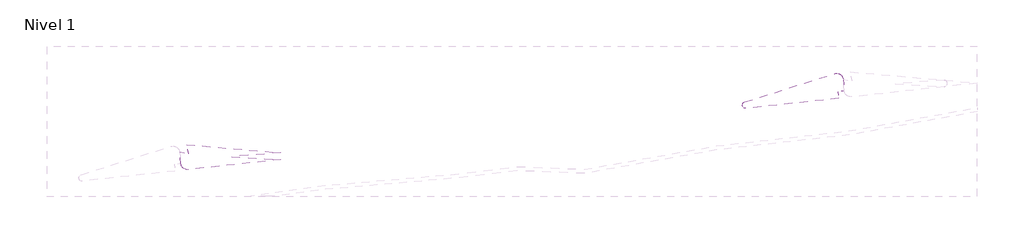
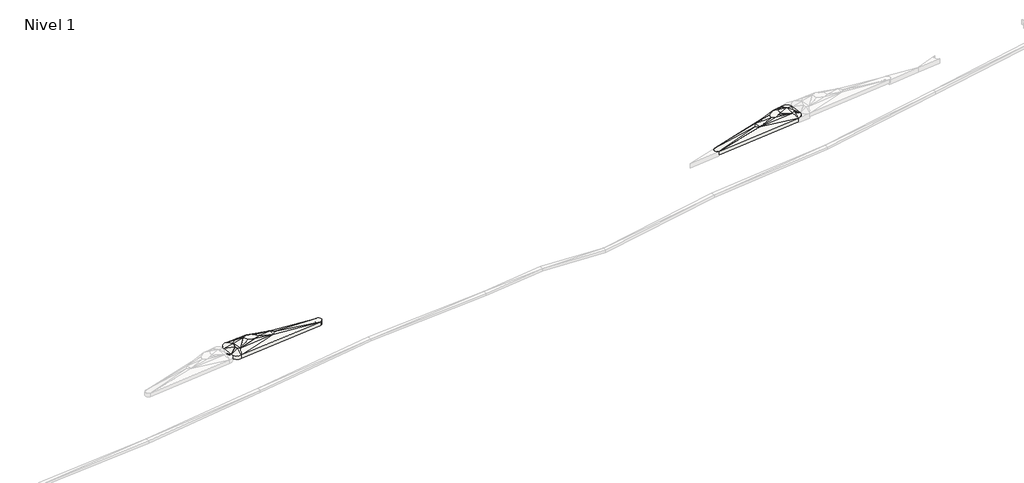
# One storey, part 9 of 45: 2 slabs.
"""IFC4 building model written with IfcOpenShell, lengths in millimetres."""

from ifc_helpers import new_model, si_unit, frame, origin, place, context, project, spatial, polyline, circle_curve, element, save
from ifc_brep_helpers import plane_surface, cylinder_surface, revolved_surface, spline_surface, advanced_brep

model = new_model("IFC4")

# Units and contexts
model_context = context("Model", 3, world=origin())
ifc_project = project(units=[si_unit("LENGTHUNIT", "METRE", prefix="MILLI")], contexts=[model_context])

# Site, building, storey
site = spatial("IfcSite", under=ifc_project)
building = spatial("IfcBuilding", under=site)
storey = spatial("IfcBuildingStorey", under=building, Name="Nivel 1", Elevation=0.0)

# Slabs
placement = place(None, origin())
element("IfcSlab", 1, ObjectType="Lippia", at=placement, inside=storey, context=model_context, shape_type="AdvancedBrep", body=[
    advanced_brep(
    [(-78317.5096502, -457027.4415513, 4700.0), (-78317.5096502, -457027.4415513, 5000.0), (-78218.2362381, -457938.6439273, 5000.0), (-78218.2362381, -457938.6439273, 4700.0), (-78991.6641532, -456639.185149, 4700.0), (-78991.6641532, -456639.185149, 5000.0), (-85685.6037681, -458752.397251, 4700.0), (-85685.6037681, -458752.397251, 5000.0), (-78659.6044819, -458486.4283773, 4700.0), (-78659.6044819, -458486.4283773, 5000.0), (-85614.3661925, -459240.7560698, 5000.0), (-85614.3661925, -459240.7560698, 4700.0), (-80162.5180282, -457399.2884397, 5500.0), (-80622.4646258, -457751.7762355, 5500.0), (-80671.931062, -458081.0998646, 5500.0), (-80348.7650465, -458175.0724871, 5500.0), (-80104.3981646, -458049.8824294, 5500.0), (-79822.5178486, -457917.1743487, 5500.0), (-79791.5928012, -457476.8832363, 5500.0), (-78941.7160401, -457324.0306463, 5300.0), (-78720.0496059, -457778.0300772, 5300.0), (-80162.5180282, -457399.2884397, 5200.0), (-79791.5928012, -457476.8832363, 5200.0), (-79822.5178486, -457917.1743487, 5200.0), (-80104.3981646, -458049.8824294, 5200.0), (-80348.7650465, -458175.0724871, 5200.0), (-80671.931062, -458081.0998646, 5200.0), (-80622.4646258, -457751.7762355, 5200.0), (-78941.7160401, -457324.0306463, 5000.0), (-78720.0496059, -457778.0300772, 5000.0), (-81882.2890031, -457940.3607078, 5300.0), (-81769.7524408, -458423.294937, 5300.0), (-81882.2890031, -457940.3607078, 5000.0), (-81769.7524408, -458423.294937, 5000.0), (-78919.6816593, -458136.4673527, 5300.0), (-78715.6352198, -457989.5777392, 5300.0), (-78919.6816593, -458136.4673527, 5000.0), (-78715.6352198, -457989.5777392, 5000.0), (-79206.3002688, -457078.7779479, 5300.0), (-79206.3002688, -457078.7779479, 5000.0), (-79567.052821, -457075.4169529, 5300.0), (-79567.052821, -457075.4169529, 5000.0), (-82038.2762182, -458231.282357, 5300.0), (-82038.2762182, -458231.282357, 5000.0)],
    [
        (0, 1),
        (1, 2),
        (2, 3),
        (3, 0),
        (4, 5),
        (5, 1, circle_curve(frame((-78811.3713229, -457105.5482005, 5000.0), z_axis=(0.0, 0.0, -1.0), x_axis=(-0.9018616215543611, 0.432025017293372, 0.0)), 500.0000005)),
        (0, 4, circle_curve(frame((-78811.3713229, -457105.5482005, 4700.0), z_axis=(0.0, 0.0, 1.0), x_axis=(-0.9018616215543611, 0.432025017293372, 0.0)), 500.0000005)),
        (6, 7),
        (7, 5),
        (4, 6),
        (8, 9),
        (9, 10),
        (10, 11),
        (11, 8),
        (2, 9, circle_curve(frame((-78715.6352198, -457989.5777392, 5000.0), z_axis=(0.0, 0.0, -1.0), x_axis=(-0.9018616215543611, 0.432025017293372, 0.0)), 500.0000001)),
        (8, 3, circle_curve(frame((-78715.6352198, -457989.5777392, 4700.0), z_axis=(0.0, 0.0, 1.0), x_axis=(-0.9018616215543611, 0.432025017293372, 0.0)), 500.0000001)),
        (12, 13),
        (13, 14),
        (14, 15),
        (15, 16),
        (16, 17),
        (17, 18),
        (18, 12),
        (5, 19),
        (19, 1),
        (1, 20),
        (20, 2),
        (21, 22),
        (22, 23),
        (23, 24),
        (24, 25),
        (25, 26),
        (26, 27),
        (27, 21),
        (0, 28),
        (28, 4),
        (3, 29),
        (29, 0),
        (13, 30),
        (30, 14),
        (14, 31),
        (31, 15),
        (26, 32),
        (32, 27),
        (25, 33),
        (33, 26),
        (30, 31),
        (12, 30),
        (33, 32),
        (32, 21),
        (34, 9),
        (9, 35),
        (35, 34),
        (16, 34),
        (34, 17),
        (36, 37),
        (37, 8),
        (8, 36),
        (23, 36),
        (36, 24),
        (2, 35),
        (35, 20),
        (20, 19),
        (19, 34),
        (37, 3),
        (36, 28),
        (28, 29),
        (29, 37),
        (19, 17),
        (19, 18),
        (5, 38),
        (38, 19),
        (23, 28),
        (22, 28),
        (28, 39),
        (39, 4),
        (40, 18),
        (18, 38),
        (38, 40),
        (40, 5),
        (5, 30),
        (30, 40),
        (41, 39),
        (39, 22),
        (22, 41),
        (41, 32),
        (32, 4),
        (4, 41),
        (34, 15),
        (31, 34),
        (31, 9),
        (36, 33),
        (25, 36),
        (8, 33),
        (40, 12),
        (21, 41),
        (42, 31),
        (30, 42),
        (43, 32),
        (33, 43),
        (10, 7, circle_curve(frame((-85610.3085329, -458990.7890022, 5000.0), z_axis=(0.0, 0.0, -1.0), x_axis=(-0.9018616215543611, 0.432025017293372, 0.0)), 249.999999)),
        (6, 11, circle_curve(frame((-85610.3085329, -458990.7890022, 4700.0), z_axis=(0.0, 0.0, 1.0), x_axis=(-0.9018616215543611, 0.432025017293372, 0.0)), 249.999999)),
        (31, 10),
        (42, 10),
        (42, 7),
        (30, 7),
        (11, 33),
        (11, 43),
        (6, 43),
        (6, 32),
    ],
    [
        plane_surface(frame((-78317.5096502, -457027.4415513, 4700.0), z_axis=(0.9941175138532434, 0.10830682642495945, 0.0), x_axis=(0.0, 0.0, 1.0))),
        cylinder_surface(frame((-78811.3713229, -457105.5482005, 5000.0), z_axis=(0.0, 0.0, -1.0), x_axis=(-0.9018616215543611, 0.432025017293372, 0.0)), 500.0000005),
        plane_surface(frame((-85685.6037681, -458752.397251, 4700.0), z_axis=(-0.3010454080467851, 0.9536098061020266, 0.0), x_axis=(0.0, 0.0, 1.0))),
        plane_surface(frame((-78659.6044819, -458486.4283773, 4700.0), z_axis=(0.10782964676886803, -0.9941693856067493, 0.0), x_axis=(0.0, 0.0, 1.0))),
        cylinder_surface(frame((-78715.6352198, -457989.5777392, 5000.0), z_axis=(0.0, 0.0, -1.0), x_axis=(-0.9018616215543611, 0.432025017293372, 0.0)), 500.0000001),
        plane_surface(frame((-80217.7410824, -457835.8824345, 5500.0), z_axis=(0.0, 0.0, 1.0), x_axis=(-0.7937212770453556, -0.6082816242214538, 0.0))),
        spline_surface(2, 1, [[(-78317.5096502, -457027.4415513, 5000.0), (-78941.7160401, -457324.0306463, 5300.0)], [(-78354.82696166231, -456791.4873777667, 5000.0), (-78941.7160401, -457324.0306463, 5300.0)], [(-78561.83753116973, -456672.26666708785, 5000.0), (-78941.7160401, -457324.0306463, 5300.0)], [(-78768.84810071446, -456553.04595642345, 5000.0), (-78941.7160401, -457324.0306463, 5300.0)], [(-78991.6641532, -456639.185149, 5000.0), (-78941.7160401, -457324.0306463, 5300.0)]], [3, 2, 3], [2, 2], [0.0, 1.0, 2.0], [0.0, 1.0], weights=[[1.0, 1.0], [0.9023052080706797, 0.9023052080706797], [1.0, 1.0], [0.90230520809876, 0.90230520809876], [1.0, 1.0]]),
        plane_surface(frame((-78418.598498, -457581.3718519, 5100.0), z_axis=(0.525726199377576, 0.057276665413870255, 0.8487233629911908), x_axis=(-0.10830682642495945, 0.9941175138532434, 0.0))),
        plane_surface(frame((-80217.7410824, -457835.8824345, 5200.0), z_axis=(0.0, 0.0, -1.0), x_axis=(-0.7937212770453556, -0.6082816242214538, 0.0))),
        spline_surface(1, 2, [[(-78317.5096502, -457027.4415513, 4700.0), (-78354.82696166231, -456791.4873777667, 4700.0), (-78561.83753116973, -456672.26666708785, 4700.0), (-78768.84810071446, -456553.04595642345, 4700.0), (-78991.6641532, -456639.185149, 4700.0)], [(-78941.7160401, -457324.0306463, 5000.0), (-78941.7160401, -457324.0306463, 5000.0), (-78941.7160401, -457324.0306463, 5000.0), (-78941.7160401, -457324.0306463, 5000.0), (-78941.7160401, -457324.0306463, 5000.0)]], [2, 2], [3, 2, 3], [0.0, 1.0], [0.0, 1.0, 2.0], weights=[[1.0, 0.9023052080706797, 1.0, 0.90230520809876, 1.0], [1.0, 0.9023052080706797, 1.0, 0.90230520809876, 1.0]]),
        plane_surface(frame((-78418.598498, -457581.3718519, 4800.0), z_axis=(-0.525726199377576, -0.057276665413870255, -0.8487233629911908), x_axis=(-0.10830682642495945, 0.9941175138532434, 0.0))),
        plane_surface(frame((-81058.894897, -457924.4122693, 5433.3333333), z_axis=(-0.1602571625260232, 0.02407161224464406, 0.9867817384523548), x_axis=(0.14853983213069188, 0.9889064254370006, 0.0))),
        plane_surface(frame((-80930.1495164, -458226.4890963, 5433.3333333), z_axis=(-0.08386722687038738, -0.28841418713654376, 0.9538257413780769), x_axis=(-0.9602266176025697, 0.27922185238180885, 0.0))),
        plane_surface(frame((-81058.894897, -457924.4122693, 5133.3333333), z_axis=(0.1602571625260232, -0.02407161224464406, -0.9867817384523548), x_axis=(0.14853983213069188, 0.9889064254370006, 0.0))),
        plane_surface(frame((-80930.1495164, -458226.4890963, 5133.3333333), z_axis=(0.08386722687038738, 0.28841418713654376, -0.9538257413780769), x_axis=(-0.9602266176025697, 0.27922185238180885, 0.0))),
        plane_surface(frame((-81441.3241686, -458148.2518365, 5366.6666667), z_axis=(-0.16731720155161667, -0.0389893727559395, 0.9851318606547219), x_axis=(0.9405758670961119, 0.2931810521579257, 0.1713531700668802))),
        plane_surface(frame((-80889.0905524, -457697.1417943, 5433.3333333), z_axis=(-0.1876638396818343, 0.2448747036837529, 0.9512195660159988), x_axis=(0.9770127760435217, 0.14625009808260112, 0.15510301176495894))),
        plane_surface(frame((-81441.3241686, -458148.2518365, 5066.6666667), z_axis=(0.16731720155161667, 0.0389893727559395, -0.9851318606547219), x_axis=(0.9405758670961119, 0.2931810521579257, 0.1713531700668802))),
        plane_surface(frame((-80889.0905524, -457697.1417943, 5133.3333333), z_axis=(0.1876638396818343, -0.2448747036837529, -0.9512195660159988), x_axis=(0.9770127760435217, 0.14625009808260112, 0.15510301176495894))),
        plane_surface(frame((-78764.973787, -458204.1578231, 5200.0), z_axis=(0.33119336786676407, -0.4600653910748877, 0.8238026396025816), x_axis=(0.49140064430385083, -0.6612309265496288, -0.5668324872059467))),
        plane_surface(frame((-79615.5325575, -458034.5080436, 5433.3333333), z_axis=(0.1382235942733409, -0.29359561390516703, 0.9458836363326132), x_axis=(-0.9047463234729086, -0.425950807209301, 0.0))),
        plane_surface(frame((-78764.973787, -458204.1578231, 4900.0), z_axis=(-0.33119336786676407, 0.4600653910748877, -0.8238026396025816), x_axis=(0.49140064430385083, -0.6612309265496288, -0.5668324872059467))),
        plane_surface(frame((-79615.5325575, -458034.5080436, 5133.3333333), z_axis=(-0.1382235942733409, 0.29359561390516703, -0.9458836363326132), x_axis=(-0.9047463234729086, -0.425950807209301, 0.0))),
        revolved_surface(polyline([(-78715.6352198, -457989.5777392, 5300.0), (-78659.6044819, -458486.4283773, 5000.0)]), (-78715.6352198, -457989.5777392, 5300.0), (0.0, 0.0, -1.0)),
        plane_surface(frame((-78824.2706313, -457807.0264538, 5300.0), z_axis=(0.0, 0.0, 1.0000000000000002), x_axis=(-0.020862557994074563, 0.9997823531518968, 0.0))),
        plane_surface(frame((-78551.3070213, -457902.0839146, 5200.0), z_axis=(0.5156318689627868, 0.010759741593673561, 0.8567426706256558), x_axis=(0.8530322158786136, 0.0873507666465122, -0.5144957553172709))),
        revolved_surface(polyline([(-78218.2362381, -457938.6439273, 4700.0), (-78715.6352198, -457989.5777392, 5000.0)]), (-78715.6352198, -457989.5777392, 5000.0), (0.0, 0.0, -1.0)),
        plane_surface(frame((-78824.2706313, -457807.0264538, 5000.0), z_axis=(0.0, 0.0, -1.0000000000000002), x_axis=(-0.020862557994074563, 0.9997823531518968, 0.0))),
        plane_surface(frame((-78551.3070213, -457902.0839146, 4900.0), z_axis=(-0.5156318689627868, -0.010759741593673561, -0.8567426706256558), x_axis=(0.8530322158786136, 0.0873507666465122, -0.5144957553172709))),
        plane_surface(frame((-79227.9718493, -457792.5574492, 5366.6666667), z_axis=(0.21764361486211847, 0.005902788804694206, 0.9760104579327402), x_axis=(-0.8151271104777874, -0.5489174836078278, 0.18508751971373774))),
        plane_surface(frame((-79518.6088966, -457572.6960771, 5433.3333333), z_axis=(0.231814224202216, -0.01628210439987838, 0.9726238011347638), x_axis=(-0.9588268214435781, -0.17244754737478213, 0.22563902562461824))),
        plane_surface(frame((-79046.560154, -457013.9979144, 5200.0), z_axis=(0.3666995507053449, 0.39560387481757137, 0.8420386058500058), x_axis=(-0.06665627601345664, 0.913933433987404, -0.40035311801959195))),
        plane_surface(frame((-78659.758432, -457376.5007582, 5200.0), z_axis=(0.3578428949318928, 0.17471774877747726, 0.9172906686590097), x_axis=(0.44577725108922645, 0.8312101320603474, -0.33222335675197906))),
        plane_surface(frame((-79227.9718493, -457792.5574492, 5066.6666667), z_axis=(-0.21764361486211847, -0.005902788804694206, -0.9760104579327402), x_axis=(-0.8151271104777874, -0.5489174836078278, 0.18508751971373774))),
        plane_surface(frame((-79518.6088966, -457572.6960771, 5133.3333333), z_axis=(-0.231814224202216, 0.01628210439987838, -0.9726238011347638), x_axis=(-0.9588268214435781, -0.17244754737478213, 0.22563902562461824))),
        plane_surface(frame((-79046.560154, -457013.9979144, 4900.0), z_axis=(-0.3666995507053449, -0.39560387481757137, -0.8420386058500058), x_axis=(-0.06665627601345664, 0.913933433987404, -0.40035311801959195))),
        plane_surface(frame((-78659.758432, -457376.5007582, 4900.0), z_axis=(-0.3578428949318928, -0.17471774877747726, -0.9172906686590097), x_axis=(0.44577725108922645, 0.8312101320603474, -0.33222335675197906))),
        plane_surface(frame((-79521.6486303, -457210.359379, 5366.6666667), z_axis=(0.004137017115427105, 0.44404692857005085, 0.8959939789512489), x_axis=(-0.44765565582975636, -0.8003859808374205, 0.39873135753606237))),
        plane_surface(frame((-80147.0019924, -457218.3209366, 5200.0), z_axis=(-0.28792166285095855, 0.7706936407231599, 0.5684473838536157), x_axis=(0.7358836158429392, 0.5579112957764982, -0.3836799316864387))),
        plane_surface(frame((-79521.6486303, -457210.359379, 5066.6666667), z_axis=(-0.004137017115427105, -0.44404692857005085, -0.8959939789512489), x_axis=(-0.44765565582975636, -0.8003859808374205, 0.39873135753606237))),
        plane_surface(frame((-80147.0019924, -457218.3209366, 4900.0), z_axis=(0.28792166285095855, -0.7706936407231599, -0.5684473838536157), x_axis=(0.7358836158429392, 0.5579112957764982, -0.3836799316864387))),
        plane_surface(frame((-79313.2030367, -457293.2306101, 5366.6666667), z_axis=(0.18929279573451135, 0.20421340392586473, 0.9604504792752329), x_axis=(-0.7957052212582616, -0.5412241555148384, 0.27190000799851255))),
        plane_surface(frame((-79313.2030367, -457293.2306101, 5066.6666667), z_axis=(-0.18929279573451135, -0.20421340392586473, -0.9604504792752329), x_axis=(-0.7957052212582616, -0.5412241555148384, 0.27190000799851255))),
        plane_surface(frame((-80346.0663822, -458244.9449256, 5366.6666667), z_axis=(0.08871453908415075, -0.8815146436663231, 0.4637474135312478), x_axis=(-0.989994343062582, -0.02674362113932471, 0.13854955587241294))),
        plane_surface(frame((-79790.9482901, -458120.4740898, 5433.3333333), z_axis=(0.14054619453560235, -0.27434155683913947, 0.9513061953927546), x_axis=(-0.9834974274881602, 0.07187884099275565, 0.1660308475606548))),
        plane_surface(frame((-79783.0128607, -458348.7302223, 5200.0), z_axis=(0.06262947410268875, -0.622319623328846, 0.7802536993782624), x_axis=(0.9951769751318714, -0.020201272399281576, -0.09599321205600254))),
        plane_surface(frame((-80346.0663822, -458244.9449256, 5066.6666667), z_axis=(-0.08871453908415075, 0.8815146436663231, -0.4637474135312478), x_axis=(-0.989994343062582, -0.02674362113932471, 0.13854955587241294))),
        plane_surface(frame((-79790.9482901, -458120.4740898, 5133.3333333), z_axis=(-0.14054619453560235, 0.27434155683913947, -0.9513061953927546), x_axis=(-0.9834974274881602, 0.07187884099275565, 0.1660308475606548))),
        plane_surface(frame((-79783.0128607, -458348.7302223, 4900.0), z_axis=(-0.06262947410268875, 0.622319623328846, -0.7802536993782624), x_axis=(0.9951769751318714, -0.020201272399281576, -0.09599321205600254))),
        plane_surface(frame((-79840.3878835, -457317.1962096, 5433.3333333), z_axis=(0.08490034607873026, 0.40584783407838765, 0.9099887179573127), x_axis=(0.9788121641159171, -0.2047602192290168, 0.0))),
        plane_surface(frame((-80537.2866174, -457471.6887001, 5366.6666667), z_axis=(-0.31611396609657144, 0.8461573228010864, 0.4290568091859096), x_axis=(0.9480869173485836, 0.2982859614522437, 0.11025734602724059))),
        plane_surface(frame((-79840.3878835, -457317.1962096, 5133.3333333), z_axis=(-0.08490034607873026, -0.40584783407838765, -0.9099887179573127), x_axis=(0.9788121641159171, -0.2047602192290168, 0.0))),
        plane_surface(frame((-80537.2866174, -457471.6887001, 5066.6666667), z_axis=(0.31611396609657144, -0.8461573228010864, -0.4290568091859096), x_axis=(0.9480869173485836, 0.2982859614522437, 0.11025734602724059))),
        plane_surface(frame((-81896.772554, -458198.3126672, 5300.0), z_axis=(0.0, 0.0, 1.0000000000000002), x_axis=(0.813432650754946, -0.5816591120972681, 0.0))),
        plane_surface(frame((-79255.0057476, -456931.1266833, 5200.0), z_axis=(0.00523538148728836, 0.561939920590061, 0.8271614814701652), x_axis=(0.37402447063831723, 0.7660335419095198, -0.5227794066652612))),
        plane_surface(frame((-81896.772554, -458198.3126672, 5000.0), z_axis=(0.0, 0.0, -1.0000000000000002), x_axis=(0.813432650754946, -0.5816591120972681, 0.0))),
        plane_surface(frame((-79255.0057476, -456931.1266833, 4900.0), z_axis=(-0.00523538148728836, -0.561939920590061, -0.8271614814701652), x_axis=(0.37402447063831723, 0.7660335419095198, -0.5227794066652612))),
        cylinder_surface(frame((-85610.3085329, -458990.7890022, 5000.0), z_axis=(0.0, 0.0, -1.0), x_axis=(-0.9018616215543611, 0.432025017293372, 0.0)), 249.999999),
        plane_surface(frame((-82014.5743717, -458716.8264613, 5100.0), z_axis=(0.06489162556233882, -0.5982887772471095, 0.7986486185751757), x_axis=(0.9941693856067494, 0.10782964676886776, 0.0))),
        plane_surface(frame((-83140.7982838, -458631.7777879, 5200.0), z_axis=(-0.05982764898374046, -0.08366715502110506, 0.994696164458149), x_axis=(0.9752973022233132, 0.20737262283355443, 0.07610366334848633))),
        spline_surface(2, 1, [[(-85685.6037681, -458752.397251, 5000.0), (-82038.2762182, -458231.282357, 5300.0)], [(-85888.38608583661, -458816.44536605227, 5000.0), (-82038.2762182, -458231.282357, 5300.0)], [(-85857.69043290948, -459026.8749417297, 5000.0), (-82038.2762182, -458231.282357, 5300.0)], [(-85826.99477997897, -459237.30451740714, 5000.0), (-82038.2762182, -458231.282357, 5300.0)], [(-85614.3661925, -459240.7560698, 5000.0), (-82038.2762182, -458231.282357, 5300.0)]], [3, 2, 3], [2, 2], [0.0, 1.0, 2.0], [0.0, 1.0], weights=[[1.0, 1.0], [0.7617038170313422, 0.7617038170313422], [1.0, 1.0], [0.761703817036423, 0.761703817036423], [1.0, 1.0]]),
        plane_surface(frame((-83202.0563298, -458308.0134386, 5200.0), z_axis=(-0.08862436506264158, 0.04751886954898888, 0.9949309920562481), x_axis=(0.47254228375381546, 0.8813079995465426, 0.0))),
        plane_surface(frame((-82186.5189748, -457777.3143692, 5100.0), z_axis=(-0.18941223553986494, 0.5999937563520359, 0.7772583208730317), x_axis=(0.9078186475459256, 0.408642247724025, -0.0942168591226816))),
        plane_surface(frame((-82014.5743717, -458716.8264613, 4800.0), z_axis=(-0.06489162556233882, 0.5982887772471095, -0.7986486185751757), x_axis=(0.9941693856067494, 0.10782964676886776, 0.0))),
        plane_surface(frame((-83140.7982838, -458631.7777879, 4900.0), z_axis=(0.05982764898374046, 0.08366715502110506, -0.994696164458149), x_axis=(0.9752973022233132, 0.20737262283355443, 0.07610366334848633))),
        spline_surface(1, 2, [[(-85685.6037681, -458752.397251, 4700.0), (-85888.38608583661, -458816.44536605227, 4700.0), (-85857.69043290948, -459026.8749417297, 4700.0), (-85826.99477997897, -459237.30451740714, 4700.0), (-85614.3661925, -459240.7560698, 4700.0)], [(-82038.2762182, -458231.282357, 5000.0), (-82038.2762182, -458231.282357, 5000.0), (-82038.2762182, -458231.282357, 5000.0), (-82038.2762182, -458231.282357, 5000.0), (-82038.2762182, -458231.282357, 5000.0)]], [2, 2], [3, 2, 3], [0.0, 1.0], [0.0, 1.0, 2.0], weights=[[1.0, 0.7617038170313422, 1.0, 0.761703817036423, 1.0], [1.0, 0.7617038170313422, 1.0, 0.761703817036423, 1.0]]),
        plane_surface(frame((-83202.0563298, -458308.0134386, 4900.0), z_axis=(0.08862436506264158, -0.04751886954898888, -0.9949309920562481), x_axis=(0.47254228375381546, 0.8813079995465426, 0.0))),
        plane_surface(frame((-82186.5189748, -457777.3143692, 4800.0), z_axis=(0.18941223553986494, -0.5999937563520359, -0.7772583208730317), x_axis=(0.9078186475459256, 0.408642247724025, -0.0942168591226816))),
    ],
    [
        (0, [[1, 2, 3, 4]]),
        (1, [[5, 6, -1, 7]]),
        (2, [[8, 9, -5, 10]]),
        (3, [[11, 12, 13, 14]]),
        (4, [[-3, 15, -11, 16]]),
        (5, [[17, 18, 19, 20, 21, 22, 23]]),
        (6, [[-6, 24, 25]]),
        (7, [[-2, 26, 27]]),
        (8, [[28, 29, 30, 31, 32, 33, 34]]),
        (9, [[35, 36, -7]]),
        (10, [[37, 38, -4]]),
        (11, [[-18, 39, 40]]),
        (12, [[-19, 41, 42]]),
        (13, [[43, 44, -33]]),
        (14, [[45, 46, -32]]),
        (15, [[-41, -40, 47]]),
        (16, [[-39, -17, 48]]),
        (17, [[49, -43, -46]]),
        (18, [[50, -34, -44]]),
        (19, [[51, 52, 53]]),
        (20, [[-21, 54, 55]]),
        (21, [[56, 57, 58]]),
        (22, [[59, 60, -30]]),
        (23, [[-52, -15, 61]]),
        (24, [[62, 63, 64, -53]]),
        (25, [[-61, -27, -62]]),
        (26, [[65, -16, -57]]),
        (27, [[-56, 66, 67, 68]]),
        (28, [[-68, -37, -65]]),
        (29, [[69, -55, -64]]),
        (30, [[70, -22, -69]]),
        (31, [[-24, 71, 72]]),
        (32, [[-26, -25, -63]]),
        (33, [[-66, -59, 73]]),
        (34, [[-73, -29, 74]]),
        (35, [[75, 76, -36]]),
        (36, [[-67, -35, -38]]),
        (37, [[77, 78, 79]]),
        (38, [[80, 81, 82]]),
        (39, [[83, 84, 85]]),
        (40, [[86, 87, 88]]),
        (41, [[-78, -70, -72]]),
        (42, [[-75, -74, -84]]),
        (43, [[89, -42, 90]]),
        (44, [[-54, -20, -89]]),
        (45, [[91, -51, -90]]),
        (46, [[92, -45, 93]]),
        (47, [[-93, -31, -60]]),
        (48, [[-92, -58, 94]]),
        (49, [[-23, -77, 95]]),
        (50, [[-48, -95, -82]]),
        (51, [[96, -85, -28]]),
        (52, [[-86, -96, -50]]),
        (53, [[97, -47, 98]]),
        (54, [[-71, -80, -79]]),
        (55, [[99, -49, 100]]),
        (56, [[-83, -88, -76]]),
        (57, [[-13, 101, -8, 102]]),
        (58, [[-12, -91, 103]]),
        (59, [[-103, -97, 104]]),
        (60, [[-104, 105, -101]]),
        (61, [[-98, 106, -105]]),
        (62, [[-81, -9, -106]]),
        (63, [[107, -94, -14]]),
        (64, [[108, -100, -107]]),
        (65, [[-102, 109, -108]]),
        (66, [[-109, 110, -99]]),
        (67, [[-110, -10, -87]]),
    ],
),
])
element("IfcSlab", 2, ObjectType="Lippia", at=placement, inside=storey, context=model_context, shape_type="AdvancedBrep", body=[
    advanced_brep(
    [(-127919.9306746, -463386.702953, 4450.0), (-127919.9306746, -463386.702953, 4750.0), (-128017.2836823, -462498.6878545, 4750.0), (-128017.2836823, -462498.6878545, 4450.0), (-127474.6091489, -461946.2871816, 4750.0), (-127474.6091489, -461946.2871816, 4450.0), (-120440.2966363, -462568.4450473, 4750.0), (-120440.2966363, -462568.4450473, 4450.0), (-120436.339094, -463066.1232879, 4450.0), (-120436.339094, -463066.1232879, 4750.0), (-127370.6612443, -463826.2218072, 4750.0), (-127370.6612443, -463826.2218072, 4450.0), (-127334.3102682, -462633.2501033, 5050.0), (-127451.4868423, -463119.919018, 5050.0), (-127334.3102682, -462633.2501033, 4750.0), (-127451.4868423, -463119.919018, 4750.0), (-125612.8198018, -462684.9386799, 5250.0), (-125875.4325982, -462562.5289218, 5250.0), (-126138.0453947, -462440.1191636, 5250.0), (-126483.4542155, -462596.0012437, 5250.0), (-126335.0022965, -463020.0155833, 5250.0), (-126054.2664673, -463087.9089053, 5250.0), (-125822.4131863, -463143.9804424, 5250.0), (-125480.0443656, -462993.1143261, 5250.0), (-125612.8198018, -462684.9386799, 4950.0), (-125480.0443656, -462993.1143261, 4950.0), (-125822.4131863, -463143.9804424, 4950.0), (-126054.2664673, -463087.9089053, 4950.0), (-126335.0022965, -463020.0155833, 4950.0), (-126483.4542155, -462596.0012437, 4950.0), (-126138.0453947, -462440.1191636, 4950.0), (-125875.4325982, -462562.5289218, 4950.0), (-127177.8885519, -463426.5567332, 5050.0), (-127394.9706065, -463344.8705081, 5050.0), (-127177.8885519, -463426.5567332, 4750.0), (-127394.9706065, -463344.8705081, 4750.0), (-127129.4171293, -462333.0559035, 5050.0), (-127129.4171293, -462333.0559035, 4750.0), (-126775.3661179, -462250.9240748, 5050.0), (-124328.9690256, -462594.5698721, 5050.0), (-124328.9690256, -462594.5698721, 4750.0), (-126775.3661179, -462250.9240748, 4750.0), (-124334.4166422, -463090.4133046, 5050.0), (-124334.4166422, -463090.4133046, 4750.0), (-124113.7606137, -462844.8751989, 5050.0), (-124113.7606137, -462844.8751989, 4750.0)],
    [
        (0, 1),
        (1, 2),
        (2, 3),
        (3, 0),
        (2, 4, circle_curve(frame((-127520.2581228, -462444.1989915, 4750.0), z_axis=(0.0, 0.0, -1.0), x_axis=(-0.19657437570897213, 0.9804889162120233, 0.0)), 499.9999992)),
        (4, 5),
        (5, 3, circle_curve(frame((-127520.2581228, -462444.1989915, 4450.0), z_axis=(0.0, 0.0, 1.0), x_axis=(-0.19657437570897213, 0.9804889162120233, 0.0)), 499.9999992)),
        (4, 6),
        (6, 7),
        (7, 5),
        (8, 9),
        (9, 10),
        (10, 11),
        (11, 8),
        (10, 1, circle_curve(frame((-127423.2717707, -463328.9973784, 4750.0), z_axis=(0.0, 0.0, -1.0), x_axis=(-0.19657437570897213, 0.9804889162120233, 0.0)), 500.0000001)),
        (0, 11, circle_curve(frame((-127423.2717707, -463328.9973784, 4450.0), z_axis=(0.0, 0.0, 1.0), x_axis=(-0.19657437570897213, 0.9804889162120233, 0.0)), 500.0000001)),
        (2, 12),
        (12, 4),
        (1, 13),
        (13, 2),
        (5, 14),
        (14, 3),
        (3, 15),
        (15, 0),
        (16, 17),
        (17, 18),
        (18, 19),
        (19, 20),
        (20, 21),
        (21, 22),
        (22, 23),
        (23, 16),
        (24, 25),
        (25, 26),
        (26, 27),
        (27, 28),
        (28, 29),
        (29, 30),
        (30, 31),
        (31, 24),
        (20, 32),
        (32, 22),
        (10, 32),
        (32, 33),
        (33, 10),
        (19, 32),
        (26, 34),
        (34, 28),
        (11, 35),
        (35, 34),
        (34, 11),
        (34, 29),
        (32, 12),
        (12, 13),
        (13, 33),
        (19, 12),
        (12, 36),
        (36, 4),
        (35, 15),
        (15, 14),
        (14, 34),
        (14, 29),
        (5, 37),
        (37, 14),
        (4, 38),
        (38, 39),
        (39, 4),
        (19, 38),
        (38, 36),
        (36, 19),
        (5, 40),
        (40, 41),
        (41, 5),
        (29, 37),
        (37, 41),
        (41, 29),
        (22, 42),
        (42, 23),
        (23, 39),
        (39, 16),
        (39, 18),
        (25, 43),
        (43, 26),
        (24, 40),
        (40, 25),
        (30, 40),
        (42, 39),
        (40, 43),
        (1, 33),
        (35, 0),
        (10, 42),
        (42, 32),
        (42, 44),
        (44, 39),
        (18, 38),
        (34, 43),
        (43, 11),
        (40, 45),
        (45, 43),
        (41, 30),
        (6, 9, circle_curve(frame((-120462.3225749, -462817.4772374, 4750.0), z_axis=(0.0, 0.0, -1.0), x_axis=(-0.19657437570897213, 0.9804889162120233, 0.0)), 249.9999994)),
        (8, 7, circle_curve(frame((-120462.3225749, -462817.4772374, 4450.0), z_axis=(0.0, 0.0, 1.0), x_axis=(-0.19657437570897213, 0.9804889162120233, 0.0)), 249.9999994)),
        (9, 42),
        (9, 44),
        (6, 44),
        (6, 39),
        (43, 8),
        (45, 8),
        (45, 7),
        (40, 7),
    ],
    [
        plane_surface(frame((-127919.9306746, -463386.702953, 4450.0), z_axis=(-0.9940442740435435, -0.10897697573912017, 0.0), x_axis=(0.0, 0.0, 1.0))),
        cylinder_surface(frame((-127520.2581228, -462444.1989915, 4750.0), z_axis=(0.0, 0.0, -1.0), x_axis=(-0.19657437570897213, 0.9804889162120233, 0.0)), 499.9999992),
        plane_surface(frame((-127474.6091489, -461946.2871816, 4450.0), z_axis=(0.08810222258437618, 0.9961114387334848, 0.0), x_axis=(0.0, 0.0, 1.0))),
        plane_surface(frame((-120436.339094, -463066.1232879, 4450.0), z_axis=(0.10896131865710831, -0.9940459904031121, 0.0), x_axis=(0.0, 0.0, 1.0))),
        cylinder_surface(frame((-127423.2717707, -463328.9973784, 4750.0), z_axis=(0.0, 0.0, -1.0), x_axis=(-0.19657437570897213, 0.9804889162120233, 0.0)), 500.0000001),
        spline_surface(2, 1, [[(-127474.6091489, -461946.2871816, 4750.0), (-127334.3102682, -462633.2501033, 5050.0)], [(-127710.7545774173, -461924.63716991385, 4750.0), (-127334.3102682, -462633.2501033, 5050.0)], [(-127876.93858928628, -462093.8005838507, 4750.0), (-127334.3102682, -462633.2501033, 5050.0)], [(-128043.12260116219, -462262.96399772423, 4750.0), (-127334.3102682, -462633.2501033, 5050.0)], [(-128017.280259, -462498.6874793, 4750.0), (-127334.3102682, -462633.2501033, 5050.0)]], [3, 2, 3], [2, 2], [0.0, 1.0, 2.0], [0.0, 1.0], weights=[[1.0, 1.0], [0.9035324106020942, 0.9035324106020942], [1.0, 1.0], [0.9035324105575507, 0.9035324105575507], [1.0, 1.0]]),
        plane_surface(frame((-127796.2337331, -463001.7699418, 4850.0), z_axis=(-0.5154225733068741, -0.05650572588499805, 0.855071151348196), x_axis=(0.10897697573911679, -0.9940442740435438, 0.0))),
        spline_surface(1, 2, [[(-127474.6091489, -461946.2871816, 4450.0), (-127710.7545774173, -461924.63716991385, 4450.0), (-127876.93858928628, -462093.8005838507, 4450.0), (-128043.12260116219, -462262.96399772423, 4450.0), (-128017.280259, -462498.6874793, 4450.0)], [(-127334.3102682, -462633.2501033, 4750.0), (-127334.3102682, -462633.2501033, 4750.0), (-127334.3102682, -462633.2501033, 4750.0), (-127334.3102682, -462633.2501033, 4750.0), (-127334.3102682, -462633.2501033, 4750.0)]], [2, 2], [3, 2, 3], [0.0, 1.0], [0.0, 1.0, 2.0], weights=[[1.0, 0.9035324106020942, 1.0, 0.9035324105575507, 1.0], [1.0, 0.9035324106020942, 1.0, 0.9035324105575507, 1.0]]),
        plane_surface(frame((-127796.2337331, -463001.7699418, 4550.0), z_axis=(0.5154225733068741, 0.05650572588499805, -0.855071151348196), x_axis=(0.10897697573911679, -0.9940442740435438, 0.0))),
        plane_surface(frame((-125978.6298767, -462813.0282398, 5250.0), z_axis=(0.0, 0.0, 1.0), x_axis=(-0.9063720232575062, 0.4224804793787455, 0.0))),
        plane_surface(frame((-125978.6298767, -462813.0282398, 4950.0), z_axis=(0.0, 0.0, -1.0), x_axis=(-0.9063720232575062, 0.4224804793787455, 0.0))),
        plane_surface(frame((-126445.1013449, -463196.8509197, 5183.3333333), z_axis=(-0.0750900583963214, -0.31049401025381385, 0.9476048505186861), x_axis=(-0.9719798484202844, 0.23506419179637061, 0.0))),
        plane_surface(frame((-127314.5068009, -463532.5496828, 4950.0), z_axis=(-0.19779889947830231, -0.5256527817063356, 0.8273842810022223), x_axis=(0.3599027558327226, 0.7461666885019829, 0.560093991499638))),
        plane_surface(frame((-126665.4483546, -463014.1911868, 5183.3333333), z_axis=(-0.19846165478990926, -0.06948353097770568, 0.9776425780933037), x_axis=(-0.6307668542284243, -0.7544080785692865, -0.18166349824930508))),
        plane_surface(frame((-126445.1013449, -463196.8509197, 4883.3333333), z_axis=(0.0750900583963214, 0.31049401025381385, -0.9476048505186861), x_axis=(-0.9719798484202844, 0.23506419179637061, 0.0))),
        plane_surface(frame((-127314.5068009, -463532.5496828, 4650.0), z_axis=(0.19779889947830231, 0.5256527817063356, -0.8273842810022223), x_axis=(0.3599027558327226, 0.7461666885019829, 0.560093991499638))),
        plane_surface(frame((-126665.4483546, -463014.1911868, 4883.3333333), z_axis=(0.19846165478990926, 0.06948353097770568, -0.9776425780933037), x_axis=(-0.6307668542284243, -0.7544080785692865, -0.18166349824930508))),
        plane_surface(frame((-127339.6640672, -463131.1490906, 5050.0), z_axis=(0.0, 0.0, 1.0), x_axis=(-0.19345214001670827, 0.9811097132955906, 0.0))),
        plane_surface(frame((-126998.5510119, -462885.2693601, 5116.6666667), z_axis=(-0.226737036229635, -0.04470729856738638, 0.9729293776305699), x_axis=(-0.9725857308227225, -0.042577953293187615, -0.22861346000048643))),
        plane_surface(frame((-127312.7788488, -462304.1977295, 4950.0), z_axis=(-0.42298794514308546, 0.28870420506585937, 0.8589127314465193), x_axis=(0.18396759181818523, -0.9007834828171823, 0.3933764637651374))),
        plane_surface(frame((-127601.0269309, -462750.6189919, 4950.0), z_axis=(-0.38506660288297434, 0.09271351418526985, 0.9182199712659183), x_axis=(0.6341459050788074, -0.6962767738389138, 0.33624042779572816))),
        plane_surface(frame((-127339.6640672, -463131.1490906, 4750.0), z_axis=(0.0, 0.0, -1.0), x_axis=(-0.19345214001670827, 0.9811097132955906, 0.0))),
        plane_surface(frame((-126998.5510119, -462885.2693601, 4816.6666667), z_axis=(0.226737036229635, 0.04470729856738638, -0.9729293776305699), x_axis=(-0.9725857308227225, -0.042577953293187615, -0.22861346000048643))),
        plane_surface(frame((-127312.7788488, -462304.1977295, 4650.0), z_axis=(0.42298794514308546, -0.28870420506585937, -0.8589127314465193), x_axis=(0.18396759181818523, -0.9007834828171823, 0.3933764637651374))),
        plane_surface(frame((-127601.0269309, -462750.6189919, 4650.0), z_axis=(0.38506660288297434, -0.09271351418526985, -0.9182199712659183), x_axis=(0.6341459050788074, -0.6962767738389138, 0.33624042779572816))),
        plane_surface(frame((-126192.9814308, -462263.9270429, 4950.0), z_axis=(0.11495655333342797, 0.8183699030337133, 0.5630769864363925), x_axis=(0.853151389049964, -0.3716896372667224, 0.36603213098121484))),
        plane_surface(frame((-126796.0791542, -462393.327074, 5116.6666667), z_axis=(-0.10063372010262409, 0.43380831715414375, 0.8953676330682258), x_axis=(-0.5906065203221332, 0.6981723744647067, -0.4046470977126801))),
        plane_surface(frame((-126192.9814308, -462263.9270429, 4650.0), z_axis=(-0.11495655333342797, -0.8183699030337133, -0.5630769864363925), x_axis=(0.853151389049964, -0.3716896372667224, 0.36603213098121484))),
        plane_surface(frame((-126796.0791542, -462393.327074, 4816.6666667), z_axis=(0.10063372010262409, -0.43380831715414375, -0.8953676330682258), x_axis=(-0.5906065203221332, 0.6981723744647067, -0.4046470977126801))),
        plane_surface(frame((-125212.291398, -463075.8360244, 5183.3333333), z_axis=(0.13758334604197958, -0.3122254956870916, 0.9399925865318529), x_axis=(-0.9150943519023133, -0.40323978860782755, 0.0))),
        plane_surface(frame((-125140.6110643, -462757.5409594, 5183.3333333), z_axis=(0.149187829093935, 0.06427658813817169, 0.9867175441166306), x_axis=(0.3956813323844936, -0.9183878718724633, 0.0))),
        plane_surface(frame((-125359.9447407, -462573.2092385, 5183.3333333), z_axis=(0.128890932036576, 0.2765172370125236, 0.95232628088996), x_axis=(0.9857014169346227, 0.0693824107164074, -0.15355389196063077))),
        plane_surface(frame((-125212.291398, -463075.8360244, 4883.3333333), z_axis=(-0.13758334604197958, 0.3122254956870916, -0.9399925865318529), x_axis=(-0.9150943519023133, -0.40323978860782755, 0.0))),
        plane_surface(frame((-125140.6110643, -462757.5409594, 4883.3333333), z_axis=(-0.149187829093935, -0.06427658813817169, -0.9867175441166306), x_axis=(0.3956813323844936, -0.9183878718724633, 0.0))),
        plane_surface(frame((-125359.9447407, -462573.2092385, 4883.3333333), z_axis=(-0.128890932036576, -0.2765172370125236, -0.95232628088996), x_axis=(0.9857014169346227, 0.0693824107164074, -0.15355389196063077))),
        plane_surface(frame((-124714.4766778, -462892.6991676, 5116.6666667), z_axis=(0.1718199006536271, -0.0018877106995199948, 0.985126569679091), x_axis=(0.9816713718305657, -0.08337404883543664, -0.17137702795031))),
        plane_surface(frame((-124714.4766778, -462892.6991676, 4816.6666667), z_axis=(-0.1718199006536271, 0.0018877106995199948, -0.985126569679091), x_axis=(0.9816713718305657, -0.08337404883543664, -0.17137702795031))),
        plane_surface(frame((-127588.7960411, -463283.8308263, 4950.0), z_axis=(-0.48512903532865, -0.12188257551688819, 0.8659067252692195), x_axis=(0.8661563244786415, 0.06902131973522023, 0.4949841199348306))),
        spline_surface(2, 1, [[(-127919.9306746, -463386.702953, 4750.0), (-127394.9706065, -463344.8705081, 5050.0)], [(-127862.81372679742, -463878.2956791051, 4750.0), (-127394.9706065, -463344.8705081, 5050.0)], [(-127370.6612443, -463826.2218072, 4750.0), (-127394.9706065, -463344.8705081, 5050.0)]], [3, 3], [2, 2], [0.0, 1.0], [0.0, 1.0], weights=[[1.0, 1.0], [0.710722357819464, 0.710722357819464], [1.0, 1.0]]),
        plane_surface(frame((-127588.7960411, -463283.8308263, 4650.0), z_axis=(0.48512903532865, 0.12188257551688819, -0.8659067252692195), x_axis=(0.8661563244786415, 0.06902131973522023, 0.4949841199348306))),
        spline_surface(1, 2, [[(-127919.9306746, -463386.702953, 4450.0), (-127862.81372679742, -463878.2956791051, 4450.0), (-127370.6612443, -463826.2218072, 4450.0)], [(-127394.9706065, -463344.8705081, 4750.0), (-127394.9706065, -463344.8705081, 4750.0), (-127394.9706065, -463344.8705081, 4750.0)]], [2, 2], [3, 3], [0.0, 1.0], [0.0, 1.0], weights=[[1.0, 0.710722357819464, 1.0], [1.0, 0.710722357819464, 1.0]]),
        plane_surface(frame((-126982.393871, -462520.7690835, 5116.6666667), z_axis=(-0.23249954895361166, 0.1586891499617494, 0.9595632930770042), x_axis=(-0.890320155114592, 0.362413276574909, -0.2756567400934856))),
        plane_surface(frame((-126982.393871, -462520.7690835, 4816.6666667), z_axis=(0.23249954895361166, -0.1586891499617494, -0.9595632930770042), x_axis=(-0.890320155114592, 0.362413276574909, -0.2756567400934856))),
        plane_surface(frame((-126294.3221461, -463447.730615, 4950.0), z_axis=(0.0734252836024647, -0.6211120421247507, 0.7802746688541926), x_axis=(0.9674183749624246, 0.2344457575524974, 0.09558699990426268))),
        plane_surface(frame((-124259.0487605, -462843.2861252, 5050.0), z_axis=(0.0, 0.0, 1.0000000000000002), x_axis=(-0.01098590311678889, -0.9999396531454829, 0.0))),
        plane_surface(frame((-126465.6219093, -462429.0148274, 5183.3333333), z_axis=(-0.17196163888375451, 0.3810384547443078, 0.9084266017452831), x_axis=(0.9114784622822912, 0.4113478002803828, 0.0))),
        plane_surface(frame((-127126.464132, -462176.75572, 4950.0), z_axis=(-0.12443482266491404, 0.5364092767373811, 0.8347341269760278), x_axis=(0.5763234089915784, -0.6457387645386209, 0.5008720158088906))),
        plane_surface(frame((-126294.3221461, -463447.730615, 4650.0), z_axis=(-0.0734252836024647, 0.6211120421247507, -0.7802746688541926), x_axis=(0.9674183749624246, 0.2344457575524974, 0.09558699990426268))),
        plane_surface(frame((-124259.0487605, -462843.2861252, 4750.0), z_axis=(0.0, 0.0, -1.0000000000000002), x_axis=(-0.01098590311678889, -0.9999396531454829, 0.0))),
        plane_surface(frame((-126465.6219093, -462429.0148274, 4883.3333333), z_axis=(0.17196163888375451, -0.3810384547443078, -0.9084266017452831), x_axis=(0.9114784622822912, 0.4113478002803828, 0.0))),
        plane_surface(frame((-127126.464132, -462176.75572, 4650.0), z_axis=(0.12443482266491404, -0.5364092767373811, -0.8347341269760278), x_axis=(0.5763234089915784, -0.6457387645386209, 0.5008720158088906))),
        plane_surface(frame((-125778.2394601, -463220.3168268, 5116.6666667), z_axis=(0.10033661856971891, -0.8487577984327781, 0.5191750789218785), x_axis=(-0.9688982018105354, -0.20198645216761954, -0.14296065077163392))),
        plane_surface(frame((-125778.2394601, -463220.3168268, 4816.6666667), z_axis=(-0.10033661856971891, 0.8487577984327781, -0.5191750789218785), x_axis=(-0.9688982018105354, -0.20198645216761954, -0.14296065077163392))),
        plane_surface(frame((-125747.4601794, -462428.5377035, 5116.6666667), z_axis=(0.1247410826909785, 0.8880254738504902, 0.4425499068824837), x_axis=(0.9903849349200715, -0.08455455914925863, -0.10949067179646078))),
        plane_surface(frame((-125747.4601794, -462428.5377035, 4816.6666667), z_axis=(-0.1247410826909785, -0.8880254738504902, -0.4425499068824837), x_axis=(0.9903849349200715, -0.08455455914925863, -0.10949067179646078))),
        cylinder_surface(frame((-120462.3225749, -462817.4772374, 4750.0), z_axis=(0.0, 0.0, -1.0), x_axis=(-0.19657437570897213, 0.9804889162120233, 0.0)), 249.9999994),
        plane_surface(frame((-124047.1389935, -463327.5861332, 4850.0), z_axis=(0.06531467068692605, -0.5958608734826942, 0.8004272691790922), x_axis=(0.9940459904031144, 0.10896131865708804, 0.0))),
        plane_surface(frame((-122961.50545, -463000.4705971, 4950.0), z_axis=(0.0769787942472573, -0.069177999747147, 0.9946299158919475), x_axis=(0.9970323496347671, 0.0062127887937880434, -0.07673262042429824))),
        spline_surface(2, 1, [[(-120436.339094, -463066.1232879, 4750.0), (-124113.7606137, -462844.8751989, 5050.0)], [(-120210.52489295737, -463042.5257323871, 4750.0), (-124113.7606137, -462844.8751989, 5050.0)], [(-120212.33048108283, -462815.4890880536, 4750.0), (-124113.7606137, -462844.8751989, 5050.0)], [(-120214.13606910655, -462588.45244372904, 4750.0), (-124113.7606137, -462844.8751989, 5050.0)], [(-120440.2970194, -462568.4493784, 4750.0), (-124113.7606137, -462844.8751989, 5050.0)]], [3, 2, 3], [2, 2], [0.0, 1.0, 2.0], [0.0, 1.0], weights=[[1.0, 1.0], [0.7402773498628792, 0.7402773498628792], [1.0, 1.0], [0.7402773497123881, 0.7402773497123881], [1.0, 1.0]]),
        plane_surface(frame((-122961.0087585, -462669.2967061, 4950.0), z_axis=(0.07631463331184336, 0.06561406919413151, 0.9949225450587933), x_axis=(0.6519449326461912, -0.7582663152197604, 0.0))),
        plane_surface(frame((-124081.2916036, -462369.767367, 4850.0), z_axis=(0.05561164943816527, 0.6287627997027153, 0.7756060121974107), x_axis=(0.9751721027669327, -0.20097251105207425, 0.0930022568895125))),
        plane_surface(frame((-124047.1389935, -463327.5861332, 4550.0), z_axis=(-0.06531467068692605, 0.5958608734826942, -0.8004272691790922), x_axis=(0.9940459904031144, 0.10896131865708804, 0.0))),
        plane_surface(frame((-122961.50545, -463000.4705971, 4650.0), z_axis=(-0.0769787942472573, 0.069177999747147, -0.9946299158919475), x_axis=(0.9970323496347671, 0.0062127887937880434, -0.07673262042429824))),
        spline_surface(1, 2, [[(-120436.339094, -463066.1232879, 4450.0), (-120210.52489295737, -463042.5257323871, 4450.0), (-120212.33048108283, -462815.4890880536, 4450.0), (-120214.13606910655, -462588.45244372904, 4450.0), (-120440.2970194, -462568.4493784, 4450.0)], [(-124113.7606137, -462844.8751989, 4750.0), (-124113.7606137, -462844.8751989, 4750.0), (-124113.7606137, -462844.8751989, 4750.0), (-124113.7606137, -462844.8751989, 4750.0), (-124113.7606137, -462844.8751989, 4750.0)]], [2, 2], [3, 2, 3], [0.0, 1.0], [0.0, 1.0, 2.0], weights=[[1.0, 0.7402773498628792, 1.0, 0.7402773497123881, 1.0], [1.0, 0.7402773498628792, 1.0, 0.7402773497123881, 1.0]]),
        plane_surface(frame((-122961.0087585, -462669.2967061, 4650.0), z_axis=(-0.07631463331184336, -0.06561406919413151, -0.9949225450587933), x_axis=(0.6519449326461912, -0.7582663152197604, 0.0))),
        plane_surface(frame((-124081.2916036, -462369.767367, 4550.0), z_axis=(-0.05561164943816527, -0.6287627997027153, -0.7756060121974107), x_axis=(0.9751721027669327, -0.20097251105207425, 0.0930022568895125))),
    ],
    [
        (0, [[1, 2, 3, 4]]),
        (1, [[-3, 5, 6, 7]]),
        (2, [[-6, 8, 9, 10]]),
        (3, [[11, 12, 13, 14]]),
        (4, [[-13, 15, -1, 16]]),
        (5, [[-5, 17, 18]]),
        (6, [[-2, 19, 20]]),
        (7, [[21, 22, -7]]),
        (8, [[23, 24, -4]]),
        (9, [[25, 26, 27, 28, 29, 30, 31, 32]]),
        (10, [[33, 34, 35, 36, 37, 38, 39, 40]]),
        (11, [[-29, 41, 42, -30]]),
        (12, [[43, 44, 45]]),
        (13, [[46, -41, -28]]),
        (14, [[-35, 47, 48, -36]]),
        (15, [[49, 50, 51]]),
        (16, [[-37, -48, 52]]),
        (17, [[53, 54, 55, -44]]),
        (18, [[56, -53, -46]]),
        (19, [[-18, 57, 58]]),
        (20, [[-20, -54, -17]]),
        (21, [[-50, 59, 60, 61]]),
        (22, [[-52, -61, 62]]),
        (23, [[63, 64, -21]]),
        (24, [[-22, -60, -23]]),
        (25, [[65, 66, 67]]),
        (26, [[68, 69, 70]]),
        (27, [[71, 72, 73]]),
        (28, [[74, 75, 76]]),
        (29, [[-31, 77, 78]]),
        (30, [[-32, 79, 80]]),
        (31, [[-80, 81, -26, -25]]),
        (32, [[82, 83, -34]]),
        (33, [[84, 85, -33]]),
        (34, [[-40, -39, 86, -84]]),
        (35, [[-78, 87, -79]]),
        (36, [[-85, 88, -82]]),
        (37, [[89, -55, -19]]),
        (38, [[-45, -89, -15]]),
        (39, [[-24, -59, 90]]),
        (40, [[-16, -90, -49]]),
        (41, [[-70, -57, -56]]),
        (42, [[-62, -64, -74]]),
        (43, [[91, 92, -43]]),
        (44, [[-87, 93, 94]]),
        (45, [[-27, 95, -68]]),
        (46, [[-58, -69, -65]]),
        (47, [[-51, 96, 97]]),
        (48, [[98, 99, -88]]),
        (49, [[-76, 100, -38]]),
        (50, [[-73, -75, -63]]),
        (51, [[-42, -92, -77]]),
        (52, [[-83, -96, -47]]),
        (53, [[-81, -66, -95]]),
        (54, [[-100, -72, -86]]),
        (55, [[-9, 101, -11, 102]]),
        (56, [[-12, 103, -91]]),
        (57, [[-103, 104, -93]]),
        (58, [[-104, -101, 105]]),
        (59, [[-94, -105, 106]]),
        (60, [[-67, -106, -8]]),
        (61, [[-97, 107, -14]]),
        (62, [[-99, 108, -107]]),
        (63, [[109, -102, -108]]),
        (64, [[110, -109, -98]]),
        (65, [[-10, -110, -71]]),
    ],
),
])

save(model, "model.ifc")
